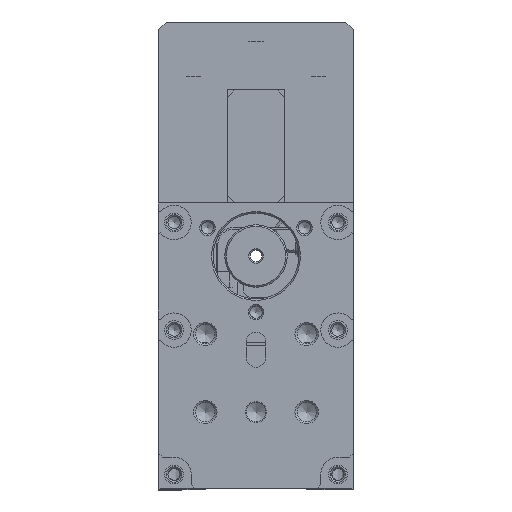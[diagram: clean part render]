
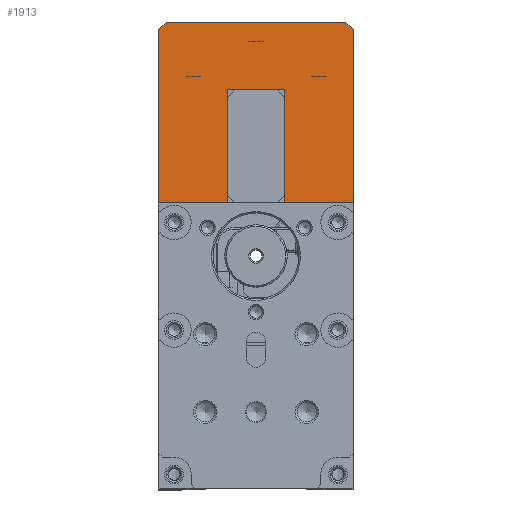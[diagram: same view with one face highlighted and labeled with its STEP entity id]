
A CAD part, front view. The second image highlights one B-rep face of the part: STEP entity #1913.
In plain terms, the highlighted planar face has unit normal (0, -1, 0) as drawn and (0, 0, 1) by its records, which use the part's own axes.
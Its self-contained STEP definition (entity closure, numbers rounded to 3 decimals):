
#778=CARTESIAN_POINT('',(0.,8.8,124.5));
#779=VERTEX_POINT('',#778);
#786=CARTESIAN_POINT('',(0.0,0.0,124.5));
#787=VERTEX_POINT('',#786);
#788=CARTESIAN_POINT('',(0.,8.8,124.5));
#789=DIRECTION('',(0.0,-1.0,0.0));
#790=VECTOR('',#789,8.8);
#791=LINE('',#788,#790);
#792=EDGE_CURVE('',#779,#787,#791,.T.);
#923=CARTESIAN_POINT('',(0.,25.,124.5));
#924=VERTEX_POINT('',#923);
#931=CARTESIAN_POINT('',(0.,16.2,124.5));
#932=VERTEX_POINT('',#931);
#933=CARTESIAN_POINT('',(0.,25.,124.5));
#934=DIRECTION('',(0.0,-1.0,0.0));
#935=VECTOR('',#934,8.8);
#936=LINE('',#933,#935);
#937=EDGE_CURVE('',#924,#932,#936,.T.);
#1647=CARTESIAN_POINT('',(-14.5,16.2,124.5));
#1648=VERTEX_POINT('',#1647);
#1655=CARTESIAN_POINT('',(-14.5,8.8,124.5));
#1656=VERTEX_POINT('',#1655);
#1657=CARTESIAN_POINT('',(-14.5,8.8,124.5));
#1658=DIRECTION('',(0.0,1.0,0.0));
#1659=VECTOR('',#1658,7.4);
#1660=LINE('',#1657,#1659);
#1661=EDGE_CURVE('',#1656,#1648,#1660,.T.);
#1687=CARTESIAN_POINT('',(-14.5,16.2,124.5));
#1688=DIRECTION('',(1.0,0.0,0.0));
#1689=VECTOR('',#1688,14.5);
#1690=LINE('',#1687,#1689);
#1691=EDGE_CURVE('',#1648,#932,#1690,.T.);
#1740=CARTESIAN_POINT('',(0.,8.8,124.5));
#1741=DIRECTION('',(-1.0,0.0,0.0));
#1742=VECTOR('',#1741,14.5);
#1743=LINE('',#1740,#1742);
#1744=EDGE_CURVE('',#779,#1656,#1743,.T.);
#1863=CARTESIAN_POINT('',(-24.36,-1.25,124.5));
#1864=DIRECTION('',(0.0,0.0,1.0));
#1865=DIRECTION('',(1.0,0.0,0.0));
#1866=AXIS2_PLACEMENT_3D('',#1863,#1864,#1865);
#1867=PLANE('',#1866);
#1868=ORIENTED_EDGE('',*,*,#1744,.T.);
#1869=ORIENTED_EDGE('',*,*,#1661,.T.);
#1870=ORIENTED_EDGE('',*,*,#1691,.T.);
#1871=ORIENTED_EDGE('',*,*,#937,.F.);
#1872=CARTESIAN_POINT('',(-22.2,25.0,124.5));
#1873=VERTEX_POINT('',#1872);
#1874=CARTESIAN_POINT('',(-22.2,25.0,124.5));
#1875=DIRECTION('',(1.0,0.0,0.0));
#1876=VECTOR('',#1875,22.2);
#1877=LINE('',#1874,#1876);
#1878=EDGE_CURVE('',#1873,#924,#1877,.T.);
#1879=ORIENTED_EDGE('',*,*,#1878,.F.);
#1880=CARTESIAN_POINT('',(-23.2,24.,124.5));
#1881=VERTEX_POINT('',#1880);
#1882=CARTESIAN_POINT('',(-23.2,24.,124.5));
#1883=DIRECTION('',(0.707,0.707,0.0));
#1884=VECTOR('',#1883,1.414);
#1885=LINE('',#1882,#1884);
#1886=EDGE_CURVE('',#1881,#1873,#1885,.T.);
#1887=ORIENTED_EDGE('',*,*,#1886,.F.);
#1888=CARTESIAN_POINT('',(-23.2,1.,124.5));
#1889=VERTEX_POINT('',#1888);
#1890=CARTESIAN_POINT('',(-23.2,1.,124.5));
#1891=DIRECTION('',(0.0,1.0,0.0));
#1892=VECTOR('',#1891,23.);
#1893=LINE('',#1890,#1892);
#1894=EDGE_CURVE('',#1889,#1881,#1893,.T.);
#1895=ORIENTED_EDGE('',*,*,#1894,.F.);
#1896=CARTESIAN_POINT('',(-22.2,0.,124.5));
#1897=VERTEX_POINT('',#1896);
#1898=CARTESIAN_POINT('',(-22.2,0.,124.5));
#1899=DIRECTION('',(-0.707,0.707,0.0));
#1900=VECTOR('',#1899,1.414);
#1901=LINE('',#1898,#1900);
#1902=EDGE_CURVE('',#1897,#1889,#1901,.T.);
#1903=ORIENTED_EDGE('',*,*,#1902,.F.);
#1904=CARTESIAN_POINT('',(0.0,0.0,124.5));
#1905=DIRECTION('',(-1.0,0.0,0.0));
#1906=VECTOR('',#1905,22.2);
#1907=LINE('',#1904,#1906);
#1908=EDGE_CURVE('',#787,#1897,#1907,.T.);
#1909=ORIENTED_EDGE('',*,*,#1908,.F.);
#1910=ORIENTED_EDGE('',*,*,#792,.F.);
#1911=EDGE_LOOP('',(#1868,#1869,#1870,#1871,#1879,#1887,#1895,#1903,#1909,#1910));
#1912=FACE_OUTER_BOUND('',#1911,.T.);
#1913=ADVANCED_FACE('',(#1912),#1867,.T.);
